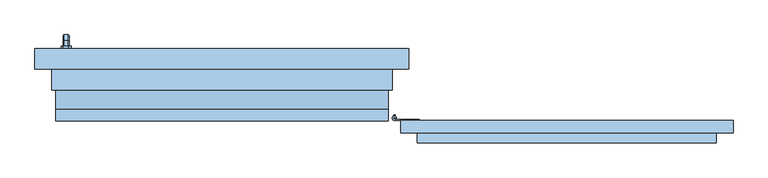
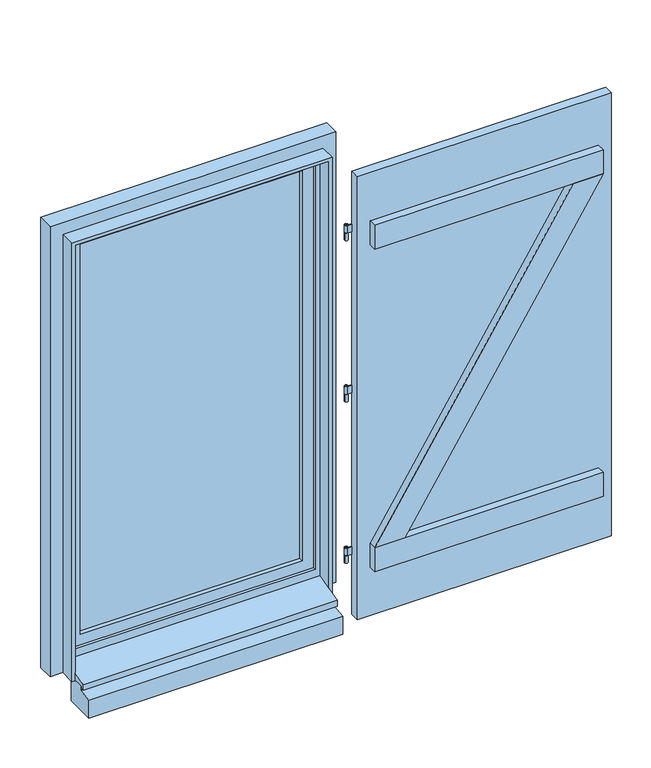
"""IFC4 building model written with IfcOpenShell, lengths in millimetres: window geometry, 1 Vantail droit - Volet et petits bois : 0.80m x 1.45m - Appui Béton."""

import ifcopenshell
import ifcopenshell.guid

model = None  # the IFC model being written
_history = None  # IfcOwnerHistory: only IFC2X3 demands one
_inside = {}  # id of a spatial element -> (the spatial element, [elements in it])
_under = {}  # id of a project, library or spatial element -> (it, [spatial elements below it])
_declared = {}  # id of a project -> (the project, [libraries it declares])
_typed = {}  # id of a type object -> (the type object, [elements of that type])
_made_of = {}  # id of a material, layer set ... -> (it, [elements and type objects made of it])


def new_model(schema):
    """Start an empty IFC model of exactly this schema.

    Asked for "IFC4X3", IfcOpenShell would pick the latest addendum, in which some entities
    have other attributes; the version numbers below select the first issue.
    IFC2X3 requires an IfcOwnerHistory on every rooted entity: one is made here for all.
    """
    global model, _history
    if schema == "IFC4X3":
        model = ifcopenshell.file(schema_version=(4, 3, 0, 0))
    else:
        model = ifcopenshell.file(schema=schema)
    _inside.clear()
    _under.clear()
    _declared.clear()
    _typed.clear()
    _made_of.clear()
    _history = None
    if model.schema == "IFC2X3":
        org = make("IfcOrganization", Name="unknown")
        user = make(
            "IfcPersonAndOrganization",
            ThePerson=make("IfcPerson", FamilyName="unknown"),
            TheOrganization=org,
        )
        app = make(
            "IfcApplication",
            ApplicationDeveloper=org,
            Version="unknown",
            ApplicationFullName="unknown",
            ApplicationIdentifier="unknown",
        )
        _history = make(
            "IfcOwnerHistory",
            OwningUser=user,
            OwningApplication=app,
            ChangeAction="ADDED",
            CreationDate=0,
        )
    return model


def make(cls, **values):
    """One entity of the class cls with the attributes given. An attribute that is None is left unset."""
    return model.create_entity(
        cls, **{name: value for name, value in values.items() if value is not None}
    )


def rooted(cls, **values):
    """An entity with a GlobalId (a new one), such as an element, a storey or a relation."""
    return make(cls, GlobalId=ifcopenshell.guid.new(), OwnerHistory=_history, **values)


def si_unit(unit_type, name, prefix=None):
    """IfcSIUnit, for example si_unit("LENGTHUNIT", "METRE", prefix="MILLI")."""
    return make("IfcSIUnit", UnitType=unit_type, Prefix=prefix, Name=name)


def assignment(units):
    """IfcUnitAssignment: the units of a project."""
    return None if units is None else make("IfcUnitAssignment", Units=units)


def point(xyz):
    """IfcCartesianPoint."""
    return None if xyz is None else make("IfcCartesianPoint", Coordinates=xyz)


def direction(xyz):
    """IfcDirection."""
    return None if xyz is None else make("IfcDirection", DirectionRatios=xyz)


def frame(location, z_axis=None, x_axis=None):
    """IfcAxis2Placement3D, a coordinate frame: its origin and axes. An axis left out is left unset."""
    return make(
        "IfcAxis2Placement3D",
        Location=point(location),
        Axis=direction(z_axis),
        RefDirection=direction(x_axis),
    )


def frame_2d(location, x_axis=None):
    """IfcAxis2Placement2D, a coordinate frame in the plane: its origin and x axis."""
    return make(
        "IfcAxis2Placement2D", Location=point(location), RefDirection=direction(x_axis)
    )


def origin():
    """The frame at (0, 0, 0) with its axes left unset."""
    return frame((0.0, 0.0, 0.0))


def place(relative_to, where):
    """IfcLocalPlacement: puts the frame where relative to a parent placement (None: the world)."""
    return make(
        "IfcLocalPlacement", PlacementRelTo=relative_to, RelativePlacement=where
    )


def context(
    kind, dimensions, precision=None, world=None, true_north=None, identifier=None
):
    """IfcGeometricRepresentationContext, for example the 3D "Model" context."""
    return make(
        "IfcGeometricRepresentationContext",
        ContextIdentifier=identifier,
        ContextType=kind,
        CoordinateSpaceDimension=dimensions,
        Precision=precision,
        WorldCoordinateSystem=world,
        TrueNorth=true_north,
    )


def project(units=None, contexts=None):
    """IfcProject with its units and contexts."""
    return rooted(
        "IfcProject",
        Name="project",
        RepresentationContexts=contexts,
        UnitsInContext=assignment(units),
    )


def spatial(cls, under=None, at=None, **own):
    """A site, building, storey or space (cls), placed at a placement, below another one or the project."""
    s = rooted(cls, ObjectPlacement=at, **own)
    if under is not None:
        _under.setdefault(under.id(), (under, []))[1].append(s)
    return s


def polyline(points):
    """IfcPolyline through the points."""
    return make("IfcPolyline", Points=[point(p) for p in points])


def circle_curve(where, radius):
    """IfcCircle in the frame where."""
    return make("IfcCircle", Position=where, Radius=radius)


def trimmed(basis, trim1, trim2, sense, master):
    """IfcTrimmedCurve: the piece of a basis curve between two trims."""
    return make(
        "IfcTrimmedCurve",
        BasisCurve=basis,
        Trim1=trim1,
        Trim2=trim2,
        SenseAgreement=sense,
        MasterRepresentation=master,
    )


def segment(curve, same_sense, transition):
    """IfcCompositeCurveSegment."""
    return make(
        "IfcCompositeCurveSegment",
        Transition=transition,
        SameSense=same_sense,
        ParentCurve=curve,
    )


def composite_curve(segments, self_intersect=None):
    """IfcCompositeCurve: segments joined end to end."""
    return make("IfcCompositeCurve", Segments=segments, SelfIntersect=self_intersect)


def outline(outer, holes=None, kind="AREA"):
    """IfcArbitraryClosedProfileDef: a profile drawn as a closed curve; with holes, ...WithVoids."""
    if holes is None:
        return make("IfcArbitraryClosedProfileDef", ProfileType=kind, OuterCurve=outer)
    return make(
        "IfcArbitraryProfileDefWithVoids",
        ProfileType=kind,
        OuterCurve=outer,
        InnerCurves=holes,
    )


def extrude(swept, where, along, depth):
    """IfcExtrudedAreaSolid: the profile swept, set in the frame where, extruded along a direction by depth."""
    return make(
        "IfcExtrudedAreaSolid",
        SweptArea=swept,
        Position=where,
        ExtrudedDirection=direction(along),
        Depth=depth,
    )


def faces_of(points, faces, orient=None, outer=None):
    """IfcFace entities. A face is a list of loops; a loop is a list of indices into points, from 0.

    orient and outer hold one flag for each loop. By default every Orientation is true, the
    first loop of a face is its IfcFaceOuterBound and the others are IfcFaceBound.
    """
    made = []
    for i, loops in enumerate(faces):
        bounds = []
        for j, loop in enumerate(loops):
            is_outer = j == 0 if outer is None else outer[i][j]
            bounds.append(
                make(
                    "IfcFaceOuterBound" if is_outer else "IfcFaceBound",
                    Bound=make("IfcPolyLoop", Polygon=[points[k] for k in loop]),
                    Orientation=True if orient is None else orient[i][j],
                )
            )
        made.append(make("IfcFace", Bounds=bounds))
    return made


def faceted_brep(points, faces, orient=None, outer=None, voids=None):
    """IfcFacetedBrep: a solid bounded by flat faces; with voids (closed shells), ...WithVoids."""
    shared = [point(p) for p in points]
    hull = make("IfcClosedShell", CfsFaces=faces_of(shared, faces, orient, outer))
    if voids is None:
        return make("IfcFacetedBrep", Outer=hull)
    return make(
        "IfcFacetedBrepWithVoids",
        Outer=hull,
        Voids=[
            make(cls, CfsFaces=faces_of(shared, fs, o, b)) for cls, fs, o, b in voids
        ],
    )


def shape(context_of_items, identifier, shape_type, items):
    """IfcShapeRepresentation: the items that make up one representation, for example the "Body"."""
    return make(
        "IfcShapeRepresentation",
        ContextOfItems=context_of_items,
        RepresentationIdentifier=identifier,
        RepresentationType=shape_type,
        Items=items,
    )


def source(mapping_origin, context_of_items, identifier, shape_type, items):
    """IfcRepresentationMap: a shape defined once, which mapped items show again and again."""
    return make(
        "IfcRepresentationMap",
        MappingOrigin=mapping_origin,
        MappedRepresentation=shape(context_of_items, identifier, shape_type, items),
    )


def transform(
    local_origin,
    x_axis=None,
    y_axis=None,
    z_axis=None,
    scale=None,
    scale2=None,
    scale3=None,
    uniform=True,
):
    """IfcCartesianTransformationOperator3D, or its non-uniform kind. x_axis, y_axis, z_axis: its Axis1, 2, 3."""
    if uniform:
        return make(
            "IfcCartesianTransformationOperator3D",
            Axis1=direction(x_axis),
            Axis2=direction(y_axis),
            LocalOrigin=point(local_origin),
            Scale=scale,
            Axis3=direction(z_axis),
        )
    return make(
        "IfcCartesianTransformationOperator3DnonUniform",
        Axis1=direction(x_axis),
        Axis2=direction(y_axis),
        LocalOrigin=point(local_origin),
        Scale=scale,
        Axis3=direction(z_axis),
        Scale2=scale2,
        Scale3=scale3,
    )


def mapped(mapping_source, mapping_target):
    """IfcMappedItem: shows the shape of a source again, moved by a transform."""
    return make(
        "IfcMappedItem", MappingSource=mapping_source, MappingTarget=mapping_target
    )


def made_of(thing, what):
    """Note that an element or type object is made of a material, layer set ...; save() writes the relation."""
    if what is not None:
        _made_of.setdefault(what.id(), (what, []))[1].append(thing)
    return thing


def element(
    cls,
    number,
    at=None,
    inside=None,
    cuts=None,
    type_object=None,
    material=None,
    context=None,
    identifier="Body",
    shape_type=None,
    held_by="IfcProductDefinitionShape",
    body=None,
    shapes=None,
    **own,
):
    """One element of the class cls, such as IfcWall. Its Tag is "e" and its number.

    at: its placement. inside: the storey or other place that contains it. cuts: it is an
    opening in that element (IfcRelVoidsElement). A single representation is given by context,
    identifier, shape_type and body (its items); several are given by shapes. held_by: the class
    of the entity that holds the representations. save() writes the other relations.
    """
    e = rooted(cls, Tag="e%d" % number, ObjectPlacement=at, **own)
    if body is not None:
        shapes = [shape(context, identifier, shape_type, body)]
    if shapes is not None:
        e.Representation = make(held_by, Representations=shapes)
    if inside is not None:
        _inside.setdefault(inside.id(), (inside, []))[1].append(e)
    if cuts is not None:
        rooted(
            "IfcRelVoidsElement", RelatingBuildingElement=cuts, RelatedOpeningElement=e
        )
    if type_object is not None:
        _typed.setdefault(type_object.id(), (type_object, []))[1].append(e)
    return made_of(e, material)


def aggregate(whole, parts):
    """IfcRelAggregates: a whole, such as a stair, and the parts it consists of."""
    return rooted("IfcRelAggregates", RelatingObject=whole, RelatedObjects=parts)


def save(model, path):
    """Write the relations noted so far, then the file.

    IfcRelAggregates (storeys below a building ...), IfcRelContainedInSpatialStructure (elements
    in a storey), IfcRelDefinesByType, IfcRelAssociatesMaterial and IfcRelDeclares: one each for
    every whole, place, type object, material and project.
    """
    for whole, parts in _under.values():
        aggregate(whole, parts)
    for where, things in _inside.values():
        rooted(
            "IfcRelContainedInSpatialStructure",
            RelatedElements=things,
            RelatingStructure=where,
        )
    for kind, things in _typed.values():
        rooted("IfcRelDefinesByType", RelatedObjects=things, RelatingType=kind)
    for what, things in _made_of.values():
        rooted("IfcRelAssociatesMaterial", RelatedObjects=things, RelatingMaterial=what)
    for by, libraries in _declared.values():
        rooted("IfcRelDeclares", RelatingContext=by, RelatedDefinitions=libraries)
    model.write(path)


def plane_surface(at):
    """IfcPlane: the flat surface through the origin of the frame at, square to its z axis."""
    return make("IfcPlane", Position=at)


def cylinder_surface(at, radius):
    """IfcCylindricalSurface: all points at the distance radius from the z axis of the frame at."""
    return make("IfcCylindricalSurface", Position=at, Radius=radius)


def advanced_brep(points, edges, surfaces, faces):
    """IfcAdvancedBrep: a solid bounded by faces that lie on surfaces and meet in shared edges.

    An edge is (start, end): straight between two places in points (the first is 0);
    or (start, end, curve); or (start, end, curve, False) where it runs against its curve.
    A face is (place in surfaces, loops), or (place, loops, False) where it looks against
    its surface's normal. A loop lists edges by number (the first is 1), with a minus sign
    where the edge is run from its end to its start. The first loop is the outer one.
    """
    corners = [point(p) for p in points]
    vertices = [make("IfcVertexPoint", VertexGeometry=c) for c in corners]
    made = []
    for start, end, *more in edges:
        made.append(
            make(
                "IfcEdgeCurve",
                EdgeStart=vertices[start],
                EdgeEnd=vertices[end],
                EdgeGeometry=more[0] if more else make("IfcPolyline", Points=[corners[start], corners[end]]),
                SameSense=more[1] if len(more) > 1 else True,
            )
        )
    hull = []
    for where, loops, *sense in faces:
        bounds = []
        for j, loop in enumerate(loops):
            ring = [make("IfcOrientedEdge", EdgeElement=made[abs(k) - 1], Orientation=k > 0) for k in loop]
            bounds.append(
                make(
                    "IfcFaceOuterBound" if j == 0 else "IfcFaceBound",
                    Bound=make("IfcEdgeLoop", EdgeList=ring),
                    Orientation=True,
                )
            )
        hull.append(make("IfcAdvancedFace", Bounds=bounds, FaceSurface=surfaces[where], SameSense=sense[0] if sense else True))
    return make("IfcAdvancedBrep", Outer=make("IfcClosedShell", CfsFaces=hull))


def window_2f04f91e(model_context):
    return source(origin(), model_context, "Body", "SolidModel", [
        extrude(outline(polyline([(1230.0, -93.0), (1230.0, -123.0), (430.0, -123.0), (430.0, -93.0), (1230.0, -93.0)])), frame((0.0, 0.0, 775.0), z_axis=(0.0, 0.0, 1.0), x_axis=(1.0, 0.0, 0.0)), (0.0, 0.0, 1.0), 1475.0),
        advanced_brep(
        [(410.0, -88.0, 975.0), (420.0, -88.0, 975.0), (410.0, -88.0, 950.0), (420.0, -88.0, 950.0), (417.0, -83.4174243, 955.0), (417.0, -83.4174243, 965.0), (413.0, -83.4174243, 965.0), (413.0, -83.4174243, 955.0), (413.0, -80.0, 965.0), (417.0, -80.0, 965.0), (417.0, -80.0, 955.0), (413.0, -80.0, 955.0)],
        [
            (0, 1, circle_curve(frame((415.0, -88.0, 975.0), z_axis=(0.0, 0.0, 1.0), x_axis=(1.0, 0.0, 0.0)), 5.0)),
            (1, 0, circle_curve(frame((415.0, -88.0, 975.0), z_axis=(0.0, 0.0, 1.0), x_axis=(1.0, 0.0, 0.0)), 5.0)),
            (2, 3, circle_curve(frame((415.0, -88.0, 950.0), z_axis=(0.0, 0.0, -1.0), x_axis=(1.0, 0.0, 0.0)), 5.0)),
            (3, 2, circle_curve(frame((415.0, -88.0, 950.0), z_axis=(0.0, 0.0, -1.0), x_axis=(1.0, 0.0, 0.0)), 5.0)),
            (1, 3),
            (2, 0),
            (4, 5),
            (5, 6, circle_curve(frame((415.0, -88.0, 965.0), z_axis=(0.0, 0.0, 1.0), x_axis=(1.0, 0.0, 0.0)), 5.0)),
            (6, 7),
            (7, 4, circle_curve(frame((415.0, -88.0, 955.0), z_axis=(0.0, 0.0, -1.0), x_axis=(1.0, 0.0, 0.0)), 5.0)),
            (8, 6),
            (5, 9),
            (9, 8),
            (10, 4),
            (7, 11),
            (11, 10),
            (10, 9),
            (8, 11),
        ],
        [
            plane_surface(frame((420.0, -88.0, 975.0), z_axis=(0.0, 0.0, 1.0), x_axis=(0.0, -1.0, 0.0))),
            plane_surface(frame((420.0, -88.0, 950.0), z_axis=(0.0, 0.0, -1.0), x_axis=(0.0, 1.0, 0.0))),
            cylinder_surface(frame((415.0, -88.0, 950.0), z_axis=(0.0, 0.0, 1.0), x_axis=(1.0, 0.0, 0.0)), 5.0),
            plane_surface(frame((417.0, -80.0, 965.0), z_axis=(0.0, 0.0, 1.0), x_axis=(0.0, -1.0, 0.0))),
            plane_surface(frame((417.0, -80.0, 955.0), z_axis=(0.0, 0.0, -1.0), x_axis=(0.0, 1.0, 0.0))),
            plane_surface(frame((417.0, -80.0, 965.0), z_axis=(1.0, 0.0, 0.0), x_axis=(0.0, 0.0, -1.0))),
            plane_surface(frame((413.0, -85.0, 965.0), z_axis=(-1.0, 0.0, 0.0), x_axis=(0.0, 0.0, -1.0))),
            plane_surface(frame((413.0, -80.0, 965.0), z_axis=(0.0, 1.0, 0.0), x_axis=(0.0, 0.0, -1.0))),
        ],
        [
            (0, [[1, 2]]),
            (1, [[3, 4]]),
            (2, [[5, -3, 6, -2], [7, 8, 9, 10]]),
            (2, [[-6, -4, -5, -1]]),
            (3, [[11, -8, 12, 13]]),
            (4, [[14, -10, 15, 16]]),
            (5, [[-12, -7, -14, 17]]),
            (6, [[-15, -9, -11, 18]]),
            (7, [[-17, -16, -18, -13]]),
        ],
    ),
        extrude(outline(composite_curve([segment(trimmed(circle_curve(frame_2d((415.0, -88.0)), 5.0), [point((415.0, -93.0))], [point((420.0, -88.0))], False, "CARTESIAN"), True, "CONTINUOUS"), segment(polyline([(420.0, -88.0), (417.5, -88.0)]), True, "CONTINUOUS"), segment(trimmed(circle_curve(frame_2d((415.0, -88.0)), 2.5), [point((417.5, -88.0))], [point((415.0, -90.5))], True, "CARTESIAN"), True, "CONTINUOUS"), segment(polyline([(415.0, -90.5), (474.3092325, -90.5), (474.3092325, -93.0), (415.0, -93.0)]), True, "CONTINUOUS")], self_intersect=False)), frame((0.0, 0.0, 975.0), z_axis=(0.0, 0.0, 1.0), x_axis=(1.0, 0.0, 0.0)), (0.0, 0.0, 1.0), 25.0),
        extrude(outline(composite_curve([segment(trimmed(circle_curve(frame_2d((415.0, -88.0)), 2.5), [point((412.5, -88.0))], [point((417.5, -88.0))], False, "CARTESIAN"), True, "CONTINUOUS"), segment(trimmed(circle_curve(frame_2d((415.0, -88.0)), 2.5), [point((417.5, -88.0))], [point((412.5, -88.0))], False, "CARTESIAN"), True, "CONTINUOUS")], self_intersect=False)), frame((0.0, 0.0, 975.0), z_axis=(0.0, 0.0, 1.0), x_axis=(1.0, 0.0, 0.0)), (0.0, 0.0, 1.0), 25.0),
        advanced_brep(
        [(410.0, -88.0, 2050.0), (420.0, -88.0, 2050.0), (410.0, -88.0, 2025.0), (420.0, -88.0, 2025.0), (413.0, -83.4174243, 2040.0), (413.0, -83.4174243, 2030.0), (417.0, -83.4174243, 2030.0), (417.0, -83.4174243, 2040.0), (413.0, -80.0, 2040.0), (417.0, -80.0, 2040.0), (413.0, -80.0, 2030.0), (417.0, -80.0, 2030.0)],
        [
            (0, 1, circle_curve(frame((415.0, -88.0, 2050.0), z_axis=(0.0, 0.0, 1.0), x_axis=(1.0, 0.0, 0.0)), 5.0)),
            (1, 0, circle_curve(frame((415.0, -88.0, 2050.0), z_axis=(0.0, 0.0, 1.0), x_axis=(1.0, 0.0, 0.0)), 5.0)),
            (2, 3, circle_curve(frame((415.0, -88.0, 2025.0), z_axis=(0.0, 0.0, -1.0), x_axis=(1.0, 0.0, 0.0)), 5.0)),
            (3, 2, circle_curve(frame((415.0, -88.0, 2025.0), z_axis=(0.0, 0.0, -1.0), x_axis=(1.0, 0.0, 0.0)), 5.0)),
            (1, 3),
            (2, 0),
            (4, 5),
            (5, 6, circle_curve(frame((415.0, -88.0, 2030.0), z_axis=(0.0, 0.0, -1.0), x_axis=(1.0, 0.0, 0.0)), 5.0)),
            (6, 7),
            (7, 4, circle_curve(frame((415.0, -88.0, 2040.0), z_axis=(0.0, 0.0, 1.0), x_axis=(1.0, 0.0, 0.0)), 5.0)),
            (8, 4),
            (7, 9),
            (9, 8),
            (10, 11),
            (11, 6),
            (5, 10),
            (9, 11),
            (10, 8),
        ],
        [
            plane_surface(frame((420.0, -88.0, 2050.0), z_axis=(0.0, 0.0, 1.0), x_axis=(0.0, -1.0, 0.0))),
            plane_surface(frame((420.0, -88.0, 2025.0), z_axis=(0.0, 0.0, -1.0), x_axis=(0.0, 1.0, 0.0))),
            cylinder_surface(frame((415.0, -88.0, 2025.0), z_axis=(0.0, 0.0, 1.0), x_axis=(1.0, 0.0, 0.0)), 5.0),
            plane_surface(frame((413.0, -80.0, 2040.0), z_axis=(0.0, 0.0, 1.0), x_axis=(1.0, 0.0, 0.0))),
            plane_surface(frame((413.0, -80.0, 2030.0), z_axis=(0.0, 0.0, -1.0), x_axis=(-1.0, 0.0, 0.0))),
            plane_surface(frame((413.0, -80.0, 2040.0), z_axis=(0.0, 1.0, 0.0), x_axis=(0.0, 0.0, -1.0))),
            plane_surface(frame((417.0, -80.0, 2040.0), z_axis=(1.0, 0.0, 0.0), x_axis=(0.0, 0.0, -1.0))),
            plane_surface(frame((413.0, -83.4174243, 2040.0), z_axis=(-1.0, 0.0, 0.0), x_axis=(0.0, 0.0, -1.0))),
        ],
        [
            (0, [[1, 2]]),
            (1, [[3, 4]]),
            (2, [[5, -3, 6, -2], [7, 8, 9, 10]]),
            (2, [[-6, -4, -5, -1]]),
            (3, [[11, -10, 12, 13]]),
            (4, [[14, 15, -8, 16]]),
            (5, [[17, -14, 18, -13]]),
            (6, [[-9, -15, -17, -12]]),
            (7, [[-18, -16, -7, -11]]),
        ],
    ),
        extrude(outline(polyline([(413.0, -80.0), (417.0, -80.0), (417.0, -83.4174243), (413.0, -83.4174243), (413.0, -80.0)])), frame((0.0, 0.0, 1492.5), z_axis=(0.0, 0.0, 1.0), x_axis=(1.0, 0.0, 0.0)), (0.0, 0.0, 1.0), 10.0),
        extrude(outline(composite_curve([segment(trimmed(circle_curve(frame_2d((415.0, -88.0)), 5.0), [point((415.0, -93.0))], [point((420.0, -88.0))], False, "CARTESIAN"), True, "CONTINUOUS"), segment(polyline([(420.0, -88.0), (417.5, -88.0)]), True, "CONTINUOUS"), segment(trimmed(circle_curve(frame_2d((415.0, -88.0)), 2.5), [point((417.5, -88.0))], [point((412.5, -88.0))], True, "CARTESIAN"), True, "CONTINUOUS"), segment(trimmed(circle_curve(frame_2d((415.0, -88.0)), 2.5), [point((412.5, -88.0))], [point((415.0, -90.5))], True, "CARTESIAN"), True, "CONTINUOUS"), segment(polyline([(415.0, -90.5), (474.3092325, -90.5), (474.3092325, -93.0), (415.0, -93.0)]), True, "CONTINUOUS")], self_intersect=False)), frame((0.0, 0.0, 1512.5), z_axis=(0.0, 0.0, 1.0), x_axis=(1.0, 0.0, 0.0)), (0.0, 0.0, 1.0), 25.0),
        extrude(outline(composite_curve([segment(trimmed(circle_curve(frame_2d((415.0, -88.0)), 2.5), [point((412.5, -88.0))], [point((417.5, -88.0))], False, "CARTESIAN"), True, "CONTINUOUS"), segment(trimmed(circle_curve(frame_2d((415.0, -88.0)), 2.5), [point((417.5, -88.0))], [point((412.5, -88.0))], False, "CARTESIAN"), True, "CONTINUOUS")], self_intersect=False)), frame((0.0, 0.0, 1512.5), z_axis=(0.0, 0.0, 1.0), x_axis=(1.0, 0.0, 0.0)), (0.0, 0.0, 1.0), 25.0),
        extrude(outline(composite_curve([segment(trimmed(circle_curve(frame_2d((415.0, -88.0)), 5.0), [point((410.0, -88.0))], [point((420.0, -88.0))], False, "CARTESIAN"), True, "CONTINUOUS"), segment(trimmed(circle_curve(frame_2d((415.0, -88.0)), 5.0), [point((420.0, -88.0))], [point((410.0, -88.0))], False, "CARTESIAN"), True, "CONTINUOUS")], self_intersect=False)), frame((0.0, 0.0, 1487.5), z_axis=(0.0, 0.0, 1.0), x_axis=(1.0, 0.0, 0.0)), (0.0, 0.0, 1.0), 25.0),
        extrude(outline(composite_curve([segment(trimmed(circle_curve(frame_2d((415.0, -88.0)), 5.0), [point((415.0, -93.0))], [point((420.0, -88.0))], False, "CARTESIAN"), True, "CONTINUOUS"), segment(polyline([(420.0, -88.0), (417.5, -88.0)]), True, "CONTINUOUS"), segment(trimmed(circle_curve(frame_2d((415.0, -88.0)), 2.5), [point((417.5, -88.0))], [point((415.0, -90.5))], True, "CARTESIAN"), True, "CONTINUOUS"), segment(polyline([(415.0, -90.5), (474.3092325, -90.5), (474.3092325, -93.0), (415.0, -93.0)]), True, "CONTINUOUS")], self_intersect=False)), frame((0.0, 0.0, 2050.0), z_axis=(0.0, 0.0, 1.0), x_axis=(1.0, 0.0, 0.0)), (0.0, 0.0, 1.0), 25.0),
        extrude(outline(composite_curve([segment(trimmed(circle_curve(frame_2d((415.0, -88.0)), 2.5), [point((412.5, -88.0))], [point((417.5, -88.0))], False, "CARTESIAN"), True, "CONTINUOUS"), segment(trimmed(circle_curve(frame_2d((415.0, -88.0)), 2.5), [point((417.5, -88.0))], [point((412.5, -88.0))], False, "CARTESIAN"), True, "CONTINUOUS")], self_intersect=False)), frame((0.0, 0.0, 2050.0), z_axis=(0.0, 0.0, 1.0), x_axis=(1.0, 0.0, 0.0)), (0.0, 0.0, 1.0), 25.0),
        extrude(outline(polyline([(2010.0, 1190.0), (2010.0, 1095.5052018), (1015.0, 470.0007252), (1015.0, 564.4955234), (2010.0, 1190.0)])), frame((0.0, -148.0, 0.0), z_axis=(0.0, 1.0, 0.0), x_axis=(0.0, 0.0, 1.0)), (0.0, 0.0, 1.0), 25.0),
        extrude(outline(polyline([(470.0, -148.0), (470.0, -123.0), (1190.0, -123.0), (1190.0, -148.0), (470.0, -148.0)])), frame((0.0, 0.0, 2010.0), z_axis=(0.0, 0.0, 1.0), x_axis=(1.0, 0.0, 0.0)), (0.0, 0.0, 1.0), 80.0),
        extrude(outline(polyline([(470.0, -148.0), (470.0, -123.0), (1190.0, -123.0), (1190.0, -148.0), (470.0, -148.0)])), frame((0.0, 0.0, 935.0), z_axis=(0.0, 0.0, 1.0), x_axis=(1.0, 0.0, 0.0)), (0.0, 0.0, 1.0), 80.0),
        faceted_brep([(-369.3539903, 86.0, 1422.0339292), (-380.6460097, 86.0, 1422.0339292), (-382.0339292, 86.0, 1420.6460097), (-382.0339292, 86.0, 1409.3323012), (-380.6676988, 86.0, 1407.9660708), (-369.3323012, 86.0, 1407.9660708), (-367.9660708, 86.0, 1409.3323012), (-367.9660708, 86.0, 1420.6460097), (-367.9660708, 98.3386538, 1420.6460097), (-369.3539903, 98.9135489, 1422.0339292), (-367.9660708, 93.6523623, 1409.3323012), (-367.9660708, 100.3323012, 1402.6523623), (-367.9660708, 100.3323012, 1320.0), (-367.9660708, 111.6460097, 1320.0), (-367.9660708, 111.6460097, 1407.3386538), (-369.3323012, 93.0864511, 1407.9660708), (-380.6676988, 93.0864511, 1407.9660708), (-382.0339292, 93.6523623, 1409.3323012), (-382.0339292, 98.3386538, 1420.6460097), (-382.0339292, 111.6460097, 1407.3386538), (-382.0339292, 111.6460097, 1320.0), (-382.0339292, 100.3323012, 1320.0), (-382.0339292, 100.3323012, 1402.6523623), (-380.6460097, 98.9135489, 1422.0339292), (-369.3539903, 113.0339292, 1407.9135489), (-369.3323012, 98.9660708, 1402.0864511), (-380.6676988, 98.9660708, 1402.0864511), (-380.6460097, 113.0339292, 1407.9135489), (-369.3539903, 113.0339292, 1320.0), (-369.3323012, 98.9660708, 1320.0), (-380.6676988, 98.9660708, 1320.0), (-380.6460097, 113.0339292, 1320.0)], [[[0, 1, 2, 3, 4, 5, 6, 7]], [[7, 8, 9, 0]], [[6, 10, 11, 12, 13, 14, 8, 7]], [[5, 15, 10, 6]], [[4, 16, 15, 5]], [[3, 17, 16, 4]], [[2, 18, 19, 20, 21, 22, 17, 3]], [[1, 23, 18, 2]], [[0, 9, 23, 1]], [[8, 14, 24, 9]], [[15, 25, 11, 10]], [[16, 26, 25, 15]], [[17, 22, 26, 16]], [[23, 27, 19, 18]], [[9, 24, 27, 23]], [[28, 13, 12, 29, 30, 21, 20, 31]], [[14, 13, 28, 24]], [[25, 29, 12, 11]], [[26, 30, 29, 25]], [[22, 21, 30, 26]], [[27, 31, 20, 19]], [[24, 28, 31, 27]]]),
        extrude(outline(polyline([(1440.0, -368.0), (1440.0, -382.0), (1435.0, -387.0), (1365.0, -387.0), (1360.0, -382.0), (1360.0, -368.0), (1365.0, -363.0), (1435.0, -363.0), (1440.0, -368.0)])), frame((0.0, 80.0, 0.0), z_axis=(0.0, 1.0, 0.0), x_axis=(0.0, 0.0, 1.0)), (0.0, 0.0, 1.0), 6.0),
        extrude(outline(polyline([(0.0, 800.0), (0.0, 720.0), (-95.0, 720.0), (-95.0, 780.2703094), (-50.0, 785.0), (-50.0, 800.0), (0.0, 800.0)])), frame((-400.0, 0.0, 0.0), z_axis=(1.0, 0.0, 0.0), x_axis=(0.0, 1.0, 0.0)), (0.0, 0.0, 1.0), 800.0),
        extrude(outline(polyline([(-350.0, 54.0), (-350.0, 66.0), (350.0, 66.0), (350.0, 54.0), (-350.0, 54.0)])), frame((0.0, 0.0, 900.0), z_axis=(0.0, 0.0, 1.0), x_axis=(1.0, 0.0, 0.0)), (0.0, 0.0, 1.0), 1300.0),
        extrude(outline(polyline([(850.0, -400.0), (850.0, 400.0), (2250.0, 400.0), (2250.0, -400.0), (850.0, -400.0)]), holes=[polyline([(900.0, 350.0), (900.0, -350.0), (2200.0, -350.0), (2200.0, 350.0), (900.0, 350.0)])]), frame((0.0, 40.0, 0.0), z_axis=(0.0, 1.0, 0.0), x_axis=(0.0, 0.0, 1.0)), (0.0, 0.0, 1.0), 40.0),
        faceted_brep([(-450.0, 80.0, 800.0), (450.0, 80.0, 800.0), (450.0, 30.0, 800.0), (400.0, 30.0, 800.0), (400.0, -55.0, 800.0), (-400.0, -55.0, 800.0), (-400.0, 30.0, 800.0), (-450.0, 30.0, 800.0), (-450.0, 30.0, 2300.0), (-450.0, 80.0, 2300.0), (-400.0, 30.0, 839.3761425), (400.0, 30.0, 839.3761425), (450.0, 30.0, 2300.0), (-385.0, 30.0, 2235.0), (385.0, 30.0, 2235.0), (385.0, 30.0, 865.0), (-385.0, 30.0, 865.0), (-400.0, -55.0, 795.0), (-400.0, -65.0, 795.0), (-400.0, -65.0, 813.9209692), (400.0, -55.0, 795.0), (400.0, -65.0, 813.9209692), (400.0, -65.0, 795.0), (450.0, 80.0, 2300.0), (400.0, 80.0, 2250.0), (-400.0, 80.0, 2250.0), (-400.0, 80.0, 850.0), (400.0, 80.0, 850.0), (-385.0, 40.0, 865.0), (-385.0, 40.0, 2235.0), (385.0, 40.0, 865.0), (385.0, 40.0, 2235.0), (400.0, 40.0, 2250.0), (400.0, 40.0, 850.0), (-400.0, 40.0, 850.0), (-400.0, 40.0, 2250.0)], [[[0, 1, 2, 3, 4, 5, 6, 7]], [[7, 8, 9, 0]], [[7, 6, 10, 11, 3, 2, 12, 8], [13, 14, 15, 16]], [[10, 6, 5, 17, 18, 19]], [[5, 4, 20, 17]], [[4, 3, 11, 21, 22, 20]], [[2, 1, 23, 12]], [[0, 9, 23, 1], [24, 25, 26, 27]], [[13, 16, 28, 29]], [[28, 16, 15, 30]], [[31, 30, 15, 14]], [[19, 21, 11, 10]], [[32, 33, 34, 35], [29, 28, 30, 31]], [[34, 26, 25, 35]], [[26, 34, 33, 27]], [[24, 27, 33, 32]], [[18, 22, 21, 19]], [[17, 20, 22, 18]], [[13, 29, 31, 14]], [[35, 25, 24, 32]], [[12, 23, 9, 8]]]),
        extrude(outline(polyline([(800.0, -400.0), (2250.0, -400.0), (2250.0, 400.0), (800.0, 400.0), (800.0, 410.0), (2260.0, 410.0), (2260.0, -410.0), (800.0, -410.0), (800.0, -400.0)])), frame((0.0, -20.0, 0.0), z_axis=(0.0, 1.0, 0.0), x_axis=(0.0, 0.0, 1.0)), (0.0, 0.0, 1.0), 50.0),
    ])


if __name__ == "__main__":
    model = new_model("IFC4")
    model_context = context("Model", 3, world=origin())
    ifc_project = project(units=[si_unit("LENGTHUNIT", "METRE", prefix="MILLI")], contexts=[model_context])
    site = spatial("IfcSite", under=ifc_project)
    building = spatial("IfcBuilding", under=site)
    placement = place(None, origin())
    window_shape = window_2f04f91e(model_context)
    element("IfcWindow", 1, ObjectType="1 Vantail droit - Volet et petits bois : 0.80m x 1.45m - Appui Béton", at=placement, inside=building, context=model_context, shape_type="MappedRepresentation", body=[
        mapped(window_shape, transform((0.0, 0.0, 0.0), x_axis=(1.0, 0.0, 0.0), y_axis=(0.0, 1.0, 0.0), z_axis=(0.0, 0.0, 1.0))),
    ])
    save(model, "model.ifc")
